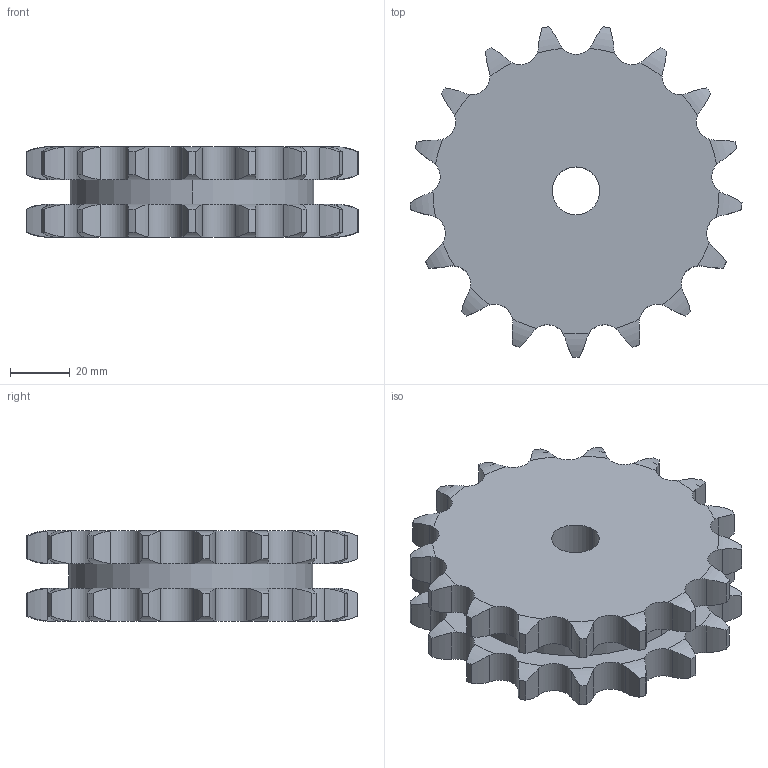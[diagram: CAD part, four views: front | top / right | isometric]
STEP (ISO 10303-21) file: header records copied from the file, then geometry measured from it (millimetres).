
FILE_DESCRIPTION((''),'2;1');
FILE_NAME('500-402-0017_PRT','2021-02-12T',('Brieden'),('Brieden'),'PRO/ENGINEER BY PARAMETRIC TECHNOLOGY CORPORATION, 2010160','PRO/ENGINEER BY PARAMETRIC TECHNOLOGY CORPORATION, 2010160','');
FILE_SCHEMA(('AUTOMOTIVE_DESIGN { 1 0 10303 214 1 1 1 1 }'));
Length unit declared in the file: millimetre
Products named in the file (1): 500-402-0017_PRT
Bounding box: 111.21 x 110.75 x 30.3 mm (x, y, z)
Volume: 206916.1 mm3; surface area: 34027.8 mm2
Topology: 1 solids, 1 shells, 212 faces, 624 edges, 416 vertices
Faces by surface type: cylinder 140, torus 68, plane 4
Entity records: 10030 total; most frequent: CARTESIAN_POINT 2763, ORIENTED_EDGE 1248, DIRECTION 988, PRESENTATION_STYLE_ASSIGNMENT 625, STYLED_ITEM 625, CURVE_STYLE 624, EDGE_CURVE 624, AXIS2_PLACEMENT_3D 424
